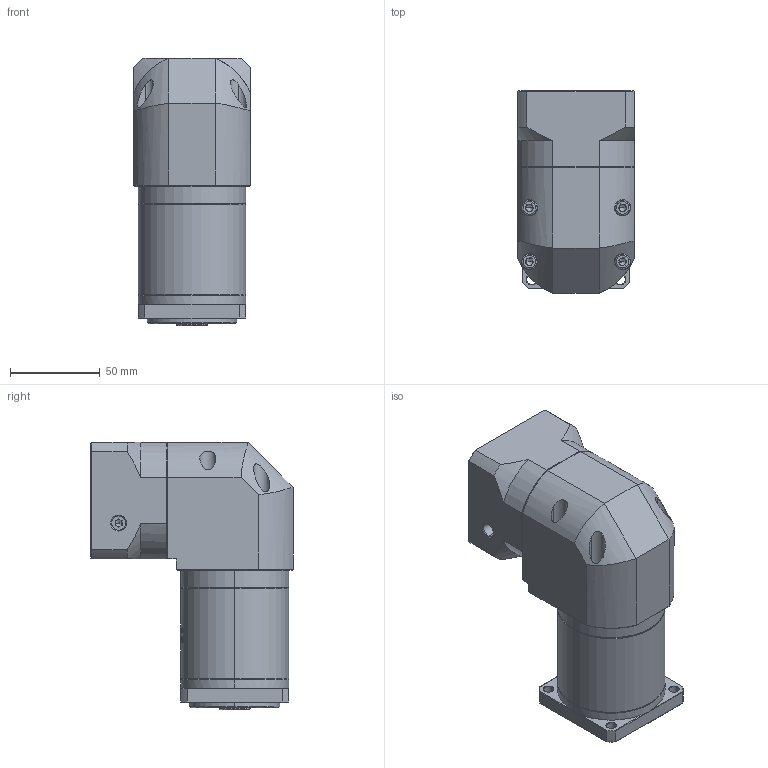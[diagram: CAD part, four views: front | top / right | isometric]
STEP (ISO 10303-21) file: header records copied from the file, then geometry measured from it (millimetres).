
FILE_DESCRIPTION (( 'STEP AP214' ), '1' );
FILE_NAME ('ZFR060-K10-L2-P2-11-60-75-M5.step', '2023-08-17T03:38:14', ( '' ), ( '' ), 'SwSTEP 2.0', 'SolidWorks 2016', '' );
FILE_SCHEMA (( 'AUTOMOTIVE_DESIGN' ));
Length unit declared in the file: millimetre
Products named in the file (1): ZFR060-K10-L2-P2-11-60-75-M5
Bounding box: 65 x 112.7 x 149 mm (x, y, z)
Volume: 594708.6 mm3; surface area: 82138.1 mm2
Topology: 5 solids, 6 shells, 1857 faces, 4958 edges, 3197 vertices
Faces by surface type: plane 840, cylinder 364, bspline 359, cone 282, torus 12
Entity records: 100512 total; most frequent: CARTESIAN_POINT 37758, ORIENTED_EDGE 9876, DIRECTION 7375, EDGE_CURVE 4938, VERTEX_POINT 3197, LINE 2555, VECTOR 2555, AXIS2_PLACEMENT_3D 2410
